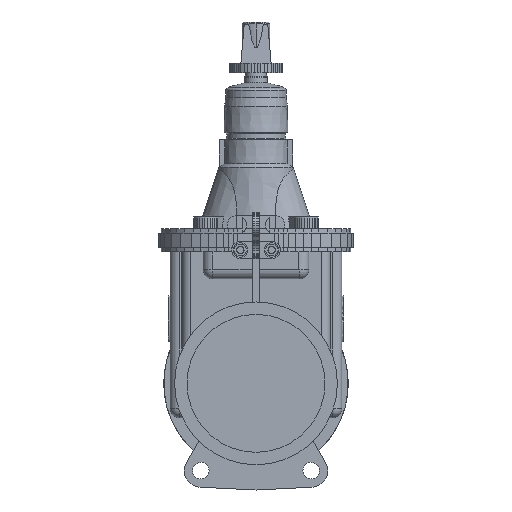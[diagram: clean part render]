
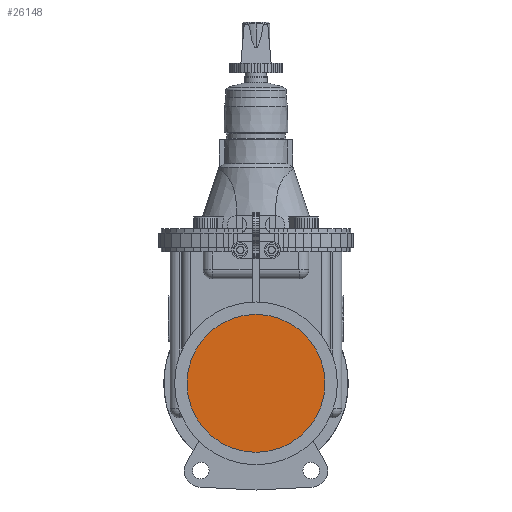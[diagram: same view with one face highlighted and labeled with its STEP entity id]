
A CAD part, left-side view. The second image highlights one B-rep face of the part: STEP entity #26148.
In plain terms, the highlighted planar face has unit normal (-1, 0, 0).
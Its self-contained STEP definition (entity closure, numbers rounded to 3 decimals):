
#11118=EDGE_CURVE('',#26560,#15436,#30226,.T.);
#15436=VERTEX_POINT('',#34953);
#18392=EDGE_CURVE('',#15436,#26560,#38175,.T.);
#26148=ADVANCED_FACE('',(#46653),#46654,.T.);
#26560=VERTEX_POINT('',#47103);
#30226=CIRCLE('',#51723,75.0);
#34953=CARTESIAN_POINT('',(-79.8,0.,75.0));
#38175=CIRCLE('',#64636,75.0);
#46653=FACE_OUTER_BOUND('',#78811,.T.);
#46654=PLANE('',#78812);
#47103=CARTESIAN_POINT('',(-79.8,0.0,-75.0));
#51723=AXIS2_PLACEMENT_3D('',#84687,#84688,#84689);
#64636=AXIS2_PLACEMENT_3D('',#93107,#93108,#93109);
#78811=EDGE_LOOP('',(#102058,#102059));
#78812=AXIS2_PLACEMENT_3D('',#102060,#102061,#102062);
#84687=CARTESIAN_POINT('',(-79.8,0.0,0.0));
#84688=DIRECTION('',(-1.0,0.0,0.0));
#84689=DIRECTION('',(0.0,0.0,-1.0));
#93107=CARTESIAN_POINT('',(-79.8,0.0,0.0));
#93108=DIRECTION('',(-1.0,0.0,0.0));
#93109=DIRECTION('',(0.0,0.0,-1.0));
#102058=ORIENTED_EDGE('',*,*,#11118,.T.);
#102059=ORIENTED_EDGE('',*,*,#18392,.T.);
#102060=CARTESIAN_POINT('',(-79.8,0.0,0.0));
#102061=DIRECTION('',(-1.0,0.0,0.0));
#102062=DIRECTION('',(0.0,0.0,-1.0));
